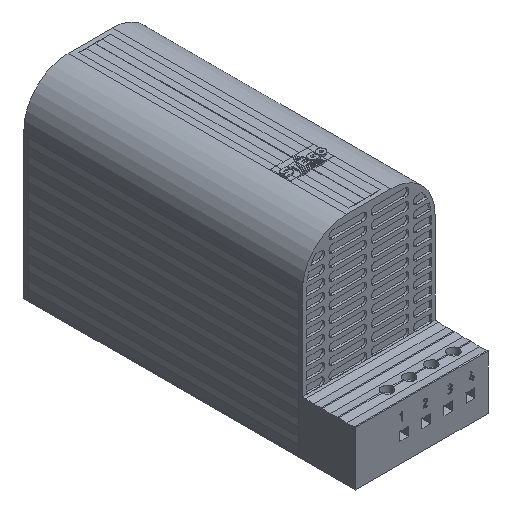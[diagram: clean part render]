
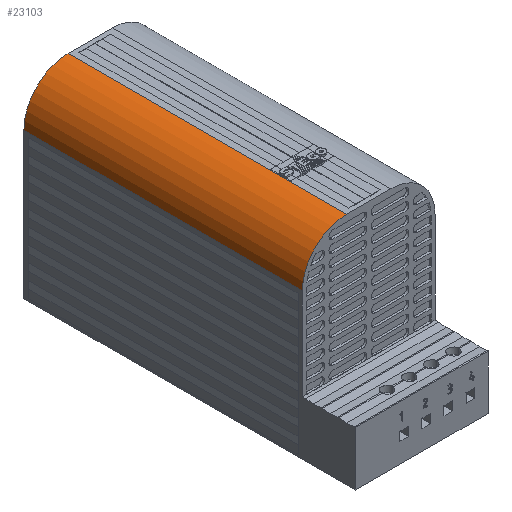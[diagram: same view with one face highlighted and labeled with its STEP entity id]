
A CAD part, isometric view. The second image highlights one B-rep face of the part: STEP entity #23103.
In plain terms, the highlighted cylindrical face has radius 20 mm (diameter 40 mm), a partial arc.
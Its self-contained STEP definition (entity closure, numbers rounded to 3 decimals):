
#419 = VECTOR ( 'NONE', #8943, 1000. ) ;
#877 = DIRECTION ( 'NONE',  ( 0., 0., 1. ) ) ;
#2587 = CARTESIAN_POINT ( 'NONE',  ( 20., -82.5, 86. ) ) ;
#2850 = DIRECTION ( 'NONE',  ( 0., 1., 0. ) ) ;
#3280 = CARTESIAN_POINT ( 'NONE',  ( 20., 43.5, 86. ) ) ;
#4971 = CYLINDRICAL_SURFACE ( 'NONE', #7705, 20. ) ;
#5423 = VERTEX_POINT ( 'NONE', #17028 ) ;
#5489 = AXIS2_PLACEMENT_3D ( 'NONE', #29146, #14990, #877 ) ;
#5699 = FACE_OUTER_BOUND ( 'NONE', #11931, .T. ) ;
#6566 = VECTOR ( 'NONE', #15378, 1000. ) ;
#7705 = AXIS2_PLACEMENT_3D ( 'NONE', #18818, #16396, #21059 ) ;
#8943 = DIRECTION ( 'NONE',  ( 0., -1., 0. ) ) ;
#10673 = EDGE_CURVE ( 'NONE', #5423, #24293, #23447, .T. ) ;
#11931 = EDGE_LOOP ( 'NONE', ( #21067, #24758, #20239, #15109 ) ) ;
#13718 = LINE ( 'NONE', #18378, #419 ) ;
#14990 = DIRECTION ( 'NONE',  ( 0., -1., 0. ) ) ;
#15109 = ORIENTED_EDGE ( 'NONE', *, *, #26920, .F. ) ;
#15378 = DIRECTION ( 'NONE',  ( 0., 1., 0. ) ) ;
#16092 = EDGE_CURVE ( 'NONE', #24293, #28964, #13718, .T. ) ;
#16396 = DIRECTION ( 'NONE',  ( 0., 1., 0. ) ) ;
#17026 = CARTESIAN_POINT ( 'NONE',  ( 20., 43.5, 66. ) ) ;
#17028 = CARTESIAN_POINT ( 'NONE',  ( 0., 43.5, 66. ) ) ;
#18378 = CARTESIAN_POINT ( 'NONE',  ( 20., -82.5, 86. ) ) ;
#18818 = CARTESIAN_POINT ( 'NONE',  ( 20., -82.5, 66. ) ) ;
#19421 = DIRECTION ( 'NONE',  ( 0., 0., -1. ) ) ;
#19934 = LINE ( 'NONE', #20185, #6566 ) ;
#20185 = CARTESIAN_POINT ( 'NONE',  ( 0., 43.5, 66. ) ) ;
#20239 = ORIENTED_EDGE ( 'NONE', *, *, #10673, .F. ) ;
#21059 = DIRECTION ( 'NONE',  ( 0., 0., 1. ) ) ;
#21067 = ORIENTED_EDGE ( 'NONE', *, *, #30267, .F. ) ;
#23103 = ADVANCED_FACE ( 'NONE', ( #5699 ), #4971, .T. ) ;
#23447 = CIRCLE ( 'NONE', #25378, 20. ) ;
#23861 = CARTESIAN_POINT ( 'NONE',  ( 0., -82.5, 66. ) ) ;
#24293 = VERTEX_POINT ( 'NONE', #3280 ) ;
#24381 = CIRCLE ( 'NONE', #5489, 20. ) ;
#24758 = ORIENTED_EDGE ( 'NONE', *, *, #16092, .F. ) ;
#25378 = AXIS2_PLACEMENT_3D ( 'NONE', #17026, #2850, #19421 ) ;
#26724 = VERTEX_POINT ( 'NONE', #23861 ) ;
#26920 = EDGE_CURVE ( 'NONE', #26724, #5423, #19934, .T. ) ;
#28964 = VERTEX_POINT ( 'NONE', #2587 ) ;
#29146 = CARTESIAN_POINT ( 'NONE',  ( 20., -82.5, 66. ) ) ;
#30267 = EDGE_CURVE ( 'NONE', #28964, #26724, #24381, .T. ) ;
